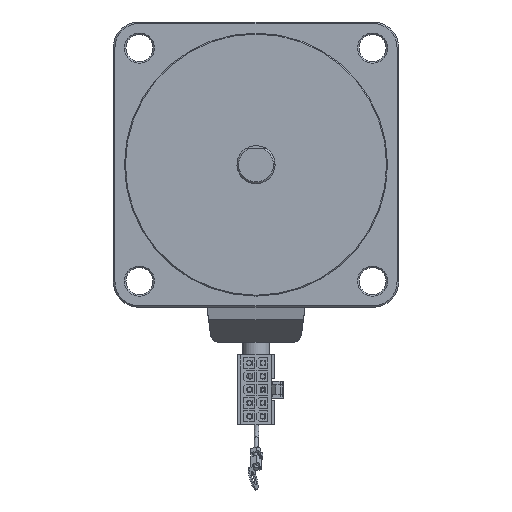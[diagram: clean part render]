
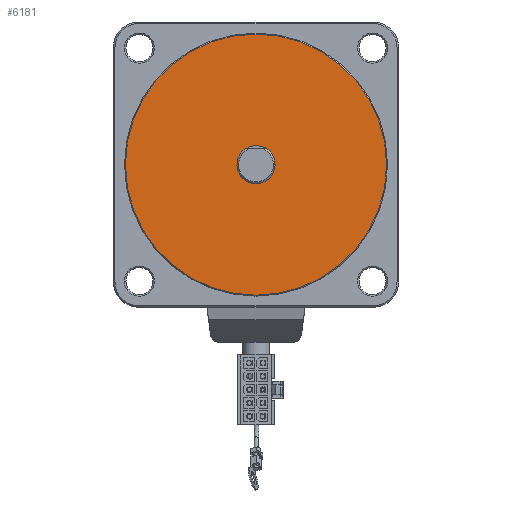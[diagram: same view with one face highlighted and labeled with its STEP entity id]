
A CAD part, front view. The second image highlights one B-rep face of the part: STEP entity #6181.
In plain terms, the highlighted planar face has unit normal (0, -1, 0).
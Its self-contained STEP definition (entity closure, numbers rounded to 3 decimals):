
#3402=CARTESIAN_POINT('',(6.,-2.,0.));
#3403=VERTEX_POINT('',#3402);
#3404=CARTESIAN_POINT('',(0.0,-2.,0.0));
#3405=DIRECTION('',(0.0,1.0,0.0));
#3406=DIRECTION('',(-1.0,0.0,0.0));
#3407=AXIS2_PLACEMENT_3D('',#3404,#3405,#3406);
#3408=CIRCLE('',#3407,6.);
#3409=EDGE_CURVE('',#3403,#3403,#3408,.T.);
#6135=CARTESIAN_POINT('',(41.2,-2.0,0.));
#6136=VERTEX_POINT('',#6135);
#6137=CARTESIAN_POINT('',(0.0,-2.0,0.0));
#6138=DIRECTION('',(0.0,1.0,0.0));
#6139=DIRECTION('',(-1.0,0.0,0.0));
#6140=AXIS2_PLACEMENT_3D('',#6137,#6138,#6139);
#6141=CIRCLE('',#6140,41.2);
#6142=EDGE_CURVE('',#6136,#6136,#6141,.T.);
#6170=CARTESIAN_POINT('',(0.0,-2.0,0.0));
#6171=DIRECTION('',(0.0,1.0,0.0));
#6172=DIRECTION('',(0.0,0.0,1.0));
#6173=AXIS2_PLACEMENT_3D('',#6170,#6171,#6172);
#6174=PLANE('',#6173);
#6175=ORIENTED_EDGE('',*,*,#6142,.F.);
#6176=EDGE_LOOP('',(#6175));
#6177=FACE_OUTER_BOUND('',#6176,.T.);
#6178=ORIENTED_EDGE('',*,*,#3409,.T.);
#6179=EDGE_LOOP('',(#6178));
#6180=FACE_BOUND('',#6179,.T.);
#6181=ADVANCED_FACE('',(#6177,#6180),#6174,.F.);
